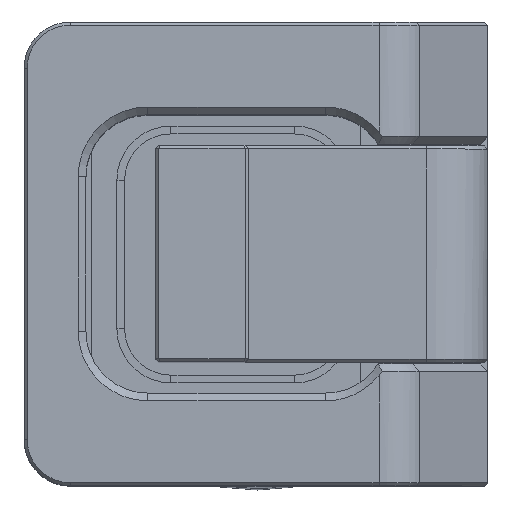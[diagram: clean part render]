
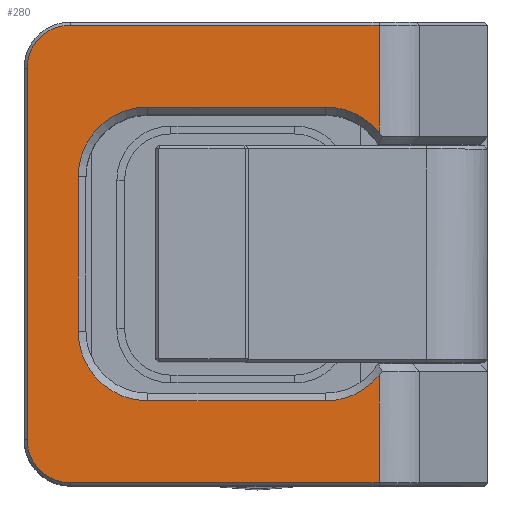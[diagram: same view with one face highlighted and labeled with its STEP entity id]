
A CAD part, top view. The second image highlights one B-rep face of the part: STEP entity #280.
In plain terms, the highlighted planar face has unit normal (0, 0, 1).
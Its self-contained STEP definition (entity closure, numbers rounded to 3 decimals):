
#280 = ADVANCED_FACE ( 'NONE', ( #20660 ), #7084, .F. ) ;
#331 = CARTESIAN_POINT ( 'NONE',  ( -24.17, 9.5, -1.5 ) ) ;
#469 = EDGE_CURVE ( 'NONE', #19225, #1389, #5673, .T. ) ;
#628 = CARTESIAN_POINT ( 'NONE',  ( 7.956, -57., -1.5 ) ) ;
#696 = VERTEX_POINT ( 'NONE', #18719 ) ;
#880 = LINE ( 'NONE', #4524, #8962 ) ;
#982 = CARTESIAN_POINT ( 'NONE',  ( -14.8, -57., -1.5 ) ) ;
#1110 = DIRECTION ( 'NONE',  ( -1., 0., 0. ) ) ;
#1127 = VERTEX_POINT ( 'NONE', #3037 ) ;
#1200 = ORIENTED_EDGE ( 'NONE', *, *, #20297, .F. ) ;
#1389 = VERTEX_POINT ( 'NONE', #13213 ) ;
#1406 = EDGE_CURVE ( 'NONE', #1127, #10040, #9437, .T. ) ;
#1528 = EDGE_CURVE ( 'NONE', #1127, #6292, #17088, .T. ) ;
#1719 = ORIENTED_EDGE ( 'NONE', *, *, #1406, .F. ) ;
#1956 = VERTEX_POINT ( 'NONE', #19784 ) ;
#2212 = EDGE_CURVE ( 'NONE', #6912, #12749, #3371, .T. ) ;
#2267 = DIRECTION ( 'NONE',  ( 0., -1., 0. ) ) ;
#2285 = DIRECTION ( 'NONE',  ( 0., 0., -1. ) ) ;
#2291 = CARTESIAN_POINT ( 'NONE',  ( -24.17, -57., -1.5 ) ) ;
#2594 = DIRECTION ( 'NONE',  ( 0., 1., 0. ) ) ;
#2689 = CARTESIAN_POINT ( 'NONE',  ( 7.956, 7.882, -1.5 ) ) ;
#3037 = CARTESIAN_POINT ( 'NONE',  ( 4.5, 9.5, -1.5 ) ) ;
#3371 = CIRCLE ( 'NONE', #18299, 4.5 ) ;
#3649 = ORIENTED_EDGE ( 'NONE', *, *, #20828, .F. ) ;
#3667 = VECTOR ( 'NONE', #17650, 1000. ) ;
#3913 = DIRECTION ( 'NONE',  ( -1., 0., 0. ) ) ;
#4524 = CARTESIAN_POINT ( 'NONE',  ( 7.956, -57., -1.5 ) ) ;
#4668 = LINE ( 'NONE', #17570, #3667 ) ;
#4917 = CIRCLE ( 'NONE', #16966, 2.8 ) ;
#5039 = ORIENTED_EDGE ( 'NONE', *, *, #18394, .F. ) ;
#5301 = EDGE_CURVE ( 'NONE', #20448, #6292, #8076, .T. ) ;
#5640 = CARTESIAN_POINT ( 'NONE',  ( -7., 5., -1.5 ) ) ;
#5673 = CIRCLE ( 'NONE', #19191, 4.5 ) ;
#5872 = LINE ( 'NONE', #982, #9685 ) ;
#6131 = DIRECTION ( 'NONE',  ( 0., -1., 0. ) ) ;
#6292 = VERTEX_POINT ( 'NONE', #2689 ) ;
#6764 = DIRECTION ( 'NONE',  ( -1., 0., 0. ) ) ;
#6820 = EDGE_CURVE ( 'NONE', #6912, #1956, #880, .T. ) ;
#6884 = VECTOR ( 'NONE', #18123, 1000. ) ;
#6912 = VERTEX_POINT ( 'NONE', #9466 ) ;
#6933 = EDGE_CURVE ( 'NONE', #1956, #15209, #4668, .T. ) ;
#6957 = CARTESIAN_POINT ( 'NONE',  ( -7., -5., -1.5 ) ) ;
#7084 = PLANE ( 'NONE',  #7220 ) ;
#7220 = AXIS2_PLACEMENT_3D ( 'NONE', #2291, #13596, #3913 ) ;
#7269 = DIRECTION ( 'NONE',  ( 1., 0., 0. ) ) ;
#7386 = LINE ( 'NONE', #11588, #6884 ) ;
#7468 = ORIENTED_EDGE ( 'NONE', *, *, #469, .T. ) ;
#7560 = VECTOR ( 'NONE', #2267, 1000. ) ;
#7681 = CARTESIAN_POINT ( 'NONE',  ( 7.956, 14.8, -1.5 ) ) ;
#8076 = LINE ( 'NONE', #628, #7560 ) ;
#8151 = DIRECTION ( 'NONE',  ( 0., 0., -1. ) ) ;
#8332 = DIRECTION ( 'NONE',  ( 0., 1., 0. ) ) ;
#8358 = CARTESIAN_POINT ( 'NONE',  ( -12., 12., -1.5 ) ) ;
#8580 = DIRECTION ( 'NONE',  ( 0., -1., 0. ) ) ;
#8693 = VECTOR ( 'NONE', #8332, 1000. ) ;
#8927 = VECTOR ( 'NONE', #6764, 1000. ) ;
#8962 = VECTOR ( 'NONE', #6131, 1000. ) ;
#9309 = AXIS2_PLACEMENT_3D ( 'NONE', #5640, #17016, #7269 ) ;
#9398 = CARTESIAN_POINT ( 'NONE',  ( -7., 9.5, -1.5 ) ) ;
#9437 = LINE ( 'NONE', #331, #8927 ) ;
#9466 = CARTESIAN_POINT ( 'NONE',  ( 7.956, -7.882, -1.5 ) ) ;
#9507 = ORIENTED_EDGE ( 'NONE', *, *, #6933, .F. ) ;
#9562 = CIRCLE ( 'NONE', #12666, 2.8 ) ;
#9685 = VECTOR ( 'NONE', #2594, 1000. ) ;
#9793 = CARTESIAN_POINT ( 'NONE',  ( -7., -9.5, -1.5 ) ) ;
#9983 = ORIENTED_EDGE ( 'NONE', *, *, #12519, .T. ) ;
#9994 = DIRECTION ( 'NONE',  ( -1., 0., 0. ) ) ;
#10040 = VERTEX_POINT ( 'NONE', #9398 ) ;
#10251 = VERTEX_POINT ( 'NONE', #19431 ) ;
#10698 = CARTESIAN_POINT ( 'NONE',  ( -14.8, -12., -1.5 ) ) ;
#10794 = EDGE_CURVE ( 'NONE', #1389, #19725, #17343, .T. ) ;
#10809 = DIRECTION ( 'NONE',  ( 0., 0., -1. ) ) ;
#11482 = CIRCLE ( 'NONE', #9309, 4.5 ) ;
#11588 = CARTESIAN_POINT ( 'NONE',  ( -7., -9.5, -1.5 ) ) ;
#11600 = LINE ( 'NONE', #13906, #20245 ) ;
#11869 = CARTESIAN_POINT ( 'NONE',  ( 4.5, -9.5, -1.5 ) ) ;
#11974 = CARTESIAN_POINT ( 'NONE',  ( 4.5, 5., -1.5 ) ) ;
#12090 = EDGE_CURVE ( 'NONE', #19725, #10040, #11482, .T. ) ;
#12244 = ORIENTED_EDGE ( 'NONE', *, *, #16864, .F. ) ;
#12519 = EDGE_CURVE ( 'NONE', #12749, #19225, #7386, .T. ) ;
#12666 = AXIS2_PLACEMENT_3D ( 'NONE', #8358, #19737, #9994 ) ;
#12749 = VERTEX_POINT ( 'NONE', #11869 ) ;
#13213 = CARTESIAN_POINT ( 'NONE',  ( -11.5, -5., -1.5 ) ) ;
#13590 = DIRECTION ( 'NONE',  ( 0., -1., 0. ) ) ;
#13596 = DIRECTION ( 'NONE',  ( 0., 0., -1. ) ) ;
#13830 = DIRECTION ( 'NONE',  ( 1., 0., 0. ) ) ;
#13906 = CARTESIAN_POINT ( 'NONE',  ( -24.17, 14.8, -1.5 ) ) ;
#15209 = VERTEX_POINT ( 'NONE', #19041 ) ;
#16184 = EDGE_LOOP ( 'NONE', ( #12244, #3649, #1200, #5039, #9507, #19235, #20069, #9983, #7468, #17970, #17980, #1719, #20919, #19376 ) ) ;
#16299 = VERTEX_POINT ( 'NONE', #10698 ) ;
#16864 = EDGE_CURVE ( 'NONE', #10251, #20448, #11600, .T. ) ;
#16966 = AXIS2_PLACEMENT_3D ( 'NONE', #20540, #10809, #1110 ) ;
#17016 = DIRECTION ( 'NONE',  ( 0., 0., -1. ) ) ;
#17088 = CIRCLE ( 'NONE', #19806, 4.5 ) ;
#17343 = LINE ( 'NONE', #18077, #8693 ) ;
#17570 = CARTESIAN_POINT ( 'NONE',  ( -24.17, -14.8, -1.5 ) ) ;
#17650 = DIRECTION ( 'NONE',  ( -1., 0., 0. ) ) ;
#17901 = CARTESIAN_POINT ( 'NONE',  ( 4.5, -5., -1.5 ) ) ;
#17970 = ORIENTED_EDGE ( 'NONE', *, *, #10794, .T. ) ;
#17980 = ORIENTED_EDGE ( 'NONE', *, *, #12090, .T. ) ;
#18077 = CARTESIAN_POINT ( 'NONE',  ( -11.5, 5., -1.5 ) ) ;
#18123 = DIRECTION ( 'NONE',  ( -1., 0., 0. ) ) ;
#18299 = AXIS2_PLACEMENT_3D ( 'NONE', #17901, #8151, #19534 ) ;
#18322 = DIRECTION ( 'NONE',  ( 0., 0., -1. ) ) ;
#18394 = EDGE_CURVE ( 'NONE', #15209, #16299, #4917, .T. ) ;
#18719 = CARTESIAN_POINT ( 'NONE',  ( -14.8, 12., -1.5 ) ) ;
#19041 = CARTESIAN_POINT ( 'NONE',  ( -12., -14.8, -1.5 ) ) ;
#19191 = AXIS2_PLACEMENT_3D ( 'NONE', #6957, #18322, #8580 ) ;
#19225 = VERTEX_POINT ( 'NONE', #9793 ) ;
#19235 = ORIENTED_EDGE ( 'NONE', *, *, #6820, .F. ) ;
#19376 = ORIENTED_EDGE ( 'NONE', *, *, #5301, .F. ) ;
#19431 = CARTESIAN_POINT ( 'NONE',  ( -12., 14.8, -1.5 ) ) ;
#19519 = CARTESIAN_POINT ( 'NONE',  ( -11.5, 5., -1.5 ) ) ;
#19534 = DIRECTION ( 'NONE',  ( 0., -1., 0. ) ) ;
#19725 = VERTEX_POINT ( 'NONE', #19519 ) ;
#19737 = DIRECTION ( 'NONE',  ( 0., 0., -1. ) ) ;
#19784 = CARTESIAN_POINT ( 'NONE',  ( 7.956, -14.8, -1.5 ) ) ;
#19806 = AXIS2_PLACEMENT_3D ( 'NONE', #11974, #2285, #13590 ) ;
#20069 = ORIENTED_EDGE ( 'NONE', *, *, #2212, .T. ) ;
#20245 = VECTOR ( 'NONE', #13830, 1000. ) ;
#20297 = EDGE_CURVE ( 'NONE', #16299, #696, #5872, .T. ) ;
#20448 = VERTEX_POINT ( 'NONE', #7681 ) ;
#20540 = CARTESIAN_POINT ( 'NONE',  ( -12., -12., -1.5 ) ) ;
#20660 = FACE_OUTER_BOUND ( 'NONE', #16184, .T. ) ;
#20828 = EDGE_CURVE ( 'NONE', #696, #10251, #9562, .T. ) ;
#20919 = ORIENTED_EDGE ( 'NONE', *, *, #1528, .T. ) ;
